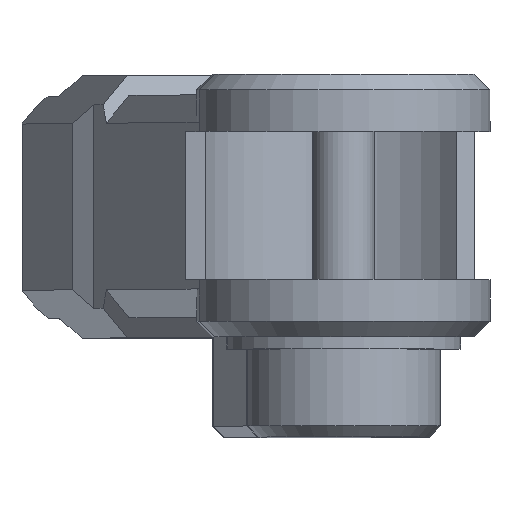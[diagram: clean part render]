
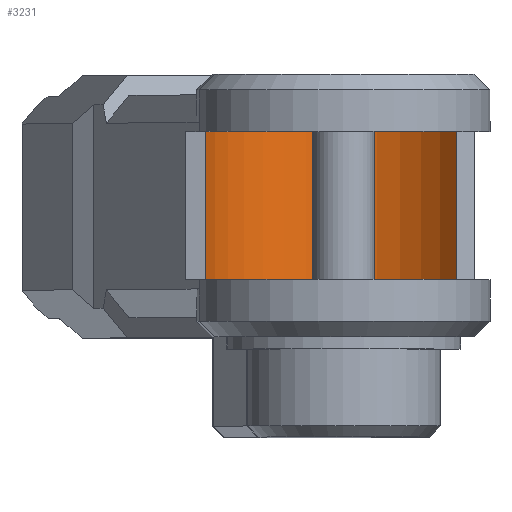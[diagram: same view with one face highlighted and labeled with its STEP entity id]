
A CAD part, top view. The second image highlights one B-rep face of the part: STEP entity #3231.
In plain terms, the highlighted cylindrical face has radius 47.5 mm (diameter 95 mm), a partial arc.
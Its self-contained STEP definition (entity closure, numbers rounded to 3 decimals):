
#1262 = FACE_OUTER_BOUND ( 'NONE', #6231, .T. ) ;
#1735 = ORIENTED_EDGE ( 'NONE', *, *, #3079, .F. ) ;
#2131 = DIRECTION ( 'NONE',  ( 0., 0., -1. ) ) ;
#2373 = DIRECTION ( 'NONE',  ( 0., 0., 1. ) ) ;
#2460 = CARTESIAN_POINT ( 'NONE',  ( 41.362, 206.645, -24. ) ) ;
#3079 = EDGE_CURVE ( 'NONE', #10045, #8491, #6850, .T. ) ;
#3096 = AXIS2_PLACEMENT_3D ( 'NONE', #4829, #4680, #7167 ) ;
#3231 = ADVANCED_FACE ( 'NONE', ( #1262 ), #6600, .F. ) ;
#3371 = EDGE_CURVE ( 'NONE', #9249, #10066, #5637, .T. ) ;
#3572 = CARTESIAN_POINT ( 'NONE',  ( 0., 230., -24. ) ) ;
#4369 = ORIENTED_EDGE ( 'NONE', *, *, #8883, .T. ) ;
#4381 = CARTESIAN_POINT ( 'NONE',  ( 41.362, 206.645, -24. ) ) ;
#4644 = EDGE_CURVE ( 'NONE', #10045, #9249, #8821, .T. ) ;
#4680 = DIRECTION ( 'NONE',  ( 0., 0., 1. ) ) ;
#4728 = CARTESIAN_POINT ( 'NONE',  ( 41.362, 206.645, 24. ) ) ;
#4829 = CARTESIAN_POINT ( 'NONE',  ( 0., 230., 24. ) ) ;
#5297 = DIRECTION ( 'NONE',  ( 1., 0., 0. ) ) ;
#5515 = CARTESIAN_POINT ( 'NONE',  ( -41.362, 206.645, -24. ) ) ;
#5615 = AXIS2_PLACEMENT_3D ( 'NONE', #3572, #9299, #5297 ) ;
#5637 = CIRCLE ( 'NONE', #3096, 47.5 ) ;
#5738 = DIRECTION ( 'NONE',  ( 0., 0., -1. ) ) ;
#5772 = VECTOR ( 'NONE', #2373, 1000. ) ;
#6231 = EDGE_LOOP ( 'NONE', ( #9979, #4369, #1735, #8585 ) ) ;
#6600 = CYLINDRICAL_SURFACE ( 'NONE', #7444, 47.5 ) ;
#6850 = CIRCLE ( 'NONE', #5615, 47.5 ) ;
#6980 = CARTESIAN_POINT ( 'NONE',  ( 0., 230., -24. ) ) ;
#7167 = DIRECTION ( 'NONE',  ( 1., 0., 0. ) ) ;
#7444 = AXIS2_PLACEMENT_3D ( 'NONE', #6980, #2131, #10263 ) ;
#8159 = VECTOR ( 'NONE', #5738, 1000. ) ;
#8491 = VERTEX_POINT ( 'NONE', #4381 ) ;
#8585 = ORIENTED_EDGE ( 'NONE', *, *, #4644, .T. ) ;
#8678 = LINE ( 'NONE', #2460, #8159 ) ;
#8821 = LINE ( 'NONE', #5515, #5772 ) ;
#8883 = EDGE_CURVE ( 'NONE', #10066, #8491, #8678, .T. ) ;
#9249 = VERTEX_POINT ( 'NONE', #10094 ) ;
#9299 = DIRECTION ( 'NONE',  ( 0., 0., 1. ) ) ;
#9979 = ORIENTED_EDGE ( 'NONE', *, *, #3371, .T. ) ;
#10045 = VERTEX_POINT ( 'NONE', #10478 ) ;
#10066 = VERTEX_POINT ( 'NONE', #4728 ) ;
#10094 = CARTESIAN_POINT ( 'NONE',  ( -41.362, 206.645, 24. ) ) ;
#10263 = DIRECTION ( 'NONE',  ( 1., 0., 0. ) ) ;
#10478 = CARTESIAN_POINT ( 'NONE',  ( -41.362, 206.645, -24. ) ) ;
